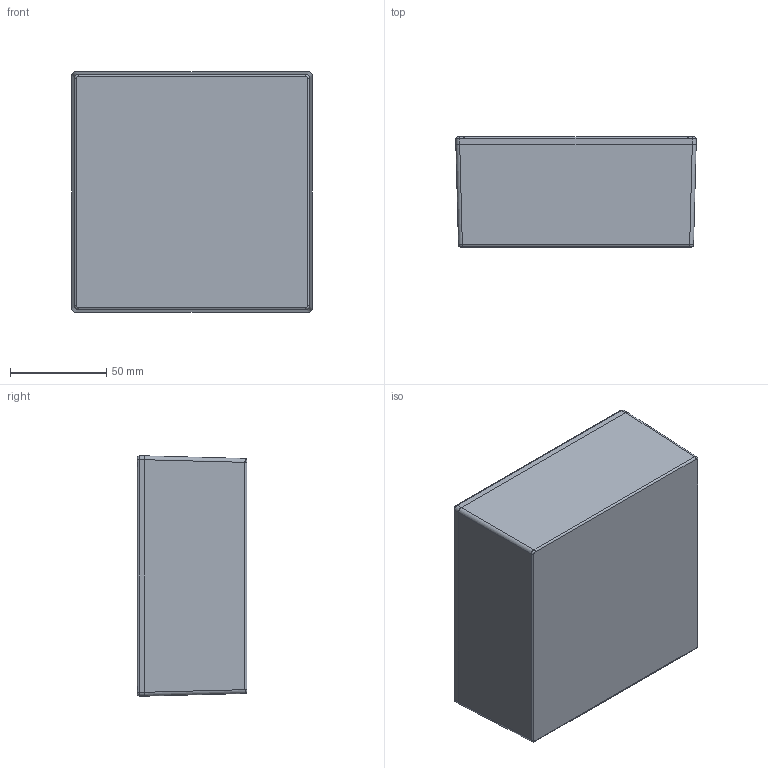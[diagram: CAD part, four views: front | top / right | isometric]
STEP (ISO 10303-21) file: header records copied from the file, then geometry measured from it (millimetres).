
FILE_DESCRIPTION(/* description */ (''),/* implementation_level */ '2;1');
FILE_NAME(/* name */ 'E:\Eng\Customer Service\Drawings\1590\STEP\1590KK\1590KK.iam.stp',/* time_stamp */ '2014-07-28T13:48:49-04:00',/* author */ ('L.Walsh'),/* organization */ (''),/* preprocessor_version */ 'ST-DEVELOPER v15.2',/* originating_system */ 'Autodesk Inventor 2014',/* authorisation */ '');
FILE_SCHEMA (('AUTOMOTIVE_DESIGN { 1 0 10303 214 3 1 1 }'));
Products named in the file (4): 1590KK Box; 1590KK Lid; #12648; 1590KK
Bounding box: 124.8 x 57 x 124.8 mm (x, y, z)
Volume: 152715.4 mm3; surface area: 115427.6 mm2
Topology: 6 solids, 6 shells, 460 faces, 1197 edges, 771 vertices
Faces by surface type: plane 256, bspline 80, cylinder 64, cone 44, torus 8, sphere 8
Full cylindrical faces by diameter (mm): 2.642 x4, 3.378 x4, 3.9 x4, 4 x4, 7.2 x4
Entity records: 12659 total; most frequent: CARTESIAN_POINT 3727, ORIENTED_EDGE 1914, DIRECTION 1618, EDGE_CURVE 957, VERTEX_POINT 627, LINE 590, VECTOR 590, AXIS2_PLACEMENT_3D 514
